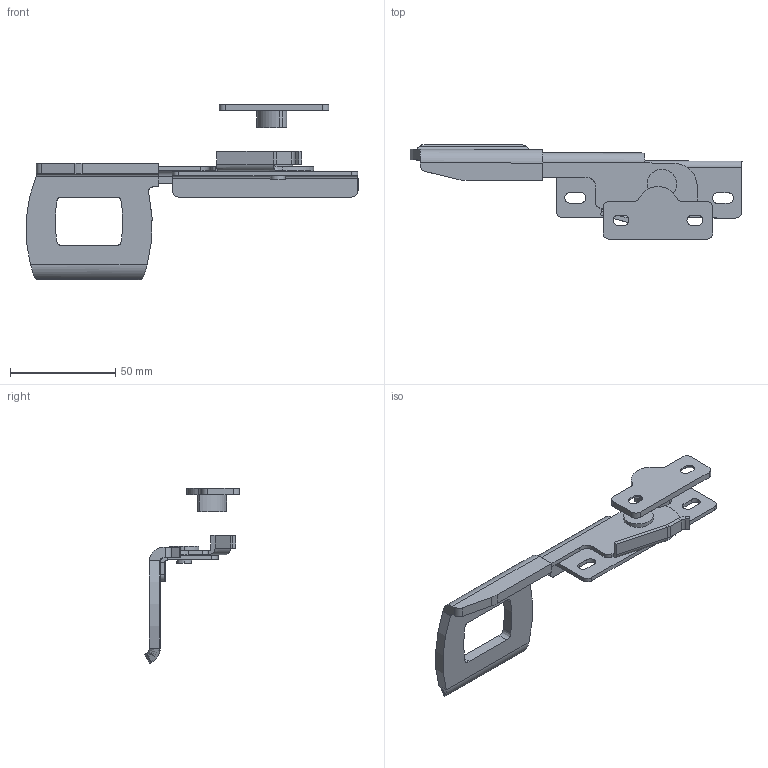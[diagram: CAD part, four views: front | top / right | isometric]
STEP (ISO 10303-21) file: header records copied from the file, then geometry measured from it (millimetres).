
FILE_DESCRIPTION (( 'STEP AP203' ), '1' );
FILE_NAME ('SK1-1627.STEP', '2023-12-20T09:02:52', ( '' ), ( '' ), 'SwSTEP 2.0', 'SolidWorks 2019', '' );
FILE_SCHEMA (( 'CONFIG_CONTROL_DESIGN' ));
Length unit declared in the file: millimetre
Products named in the file (8): 錨璃5; 穩隊; 錨璃1^蚾饜极1; 錨璃2; 菜え; SK1-1627; 錨璃1; 錨璃6
Assembly tree (6 placements, depth 2):
  錨璃1^蚾饜极1
  SK1-1627
    錨璃5
    錨璃6
    錨璃1
    錨璃2
    菜え
    穩隊
Bounding box: 157.41 x 44.97 x 83.13 mm (x, y, z)
Volume: 28958.9 mm3; surface area: 33427.2 mm2
Topology: 6 solids, 6 shells, 215 faces, 533 edges, 332 vertices
Faces by surface type: plane 103, cylinder 76, bspline 32, cone 4
Entity records: 9859 total; most frequent: CARTESIAN_POINT 4160, ORIENTED_EDGE 1066, DIRECTION 930, EDGE_CURVE 533, AXIS2_PLACEMENT_3D 336, VERTEX_POINT 332, VECTOR 258, LINE 258
